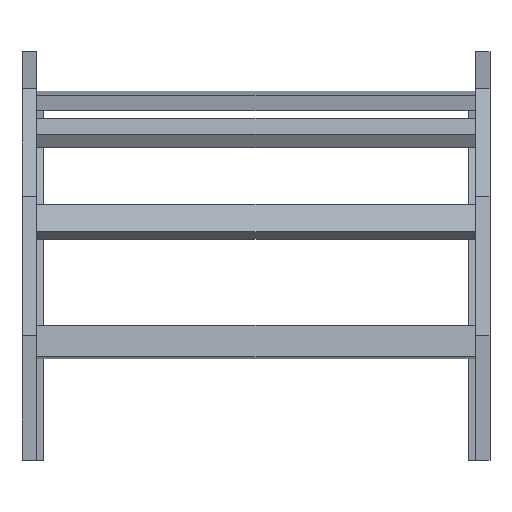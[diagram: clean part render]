
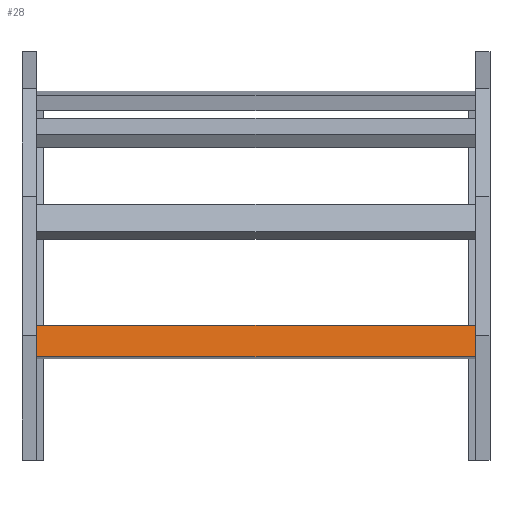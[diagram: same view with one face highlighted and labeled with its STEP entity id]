
A CAD part, top view. The second image highlights one B-rep face of the part: STEP entity #28.
In plain terms, the highlighted planar face has unit normal (0, 0.131, 0.991) as drawn and (0, 1, 0) by its records, which use the part's own axes.
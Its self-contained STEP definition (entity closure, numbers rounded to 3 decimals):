
#28 = ADVANCED_FACE ( 'NONE', ( #1362 ), #613, .F. ) ;
#58 = DIRECTION ( 'NONE',  ( -1., 0., 0. ) ) ;
#91 = VERTEX_POINT ( 'NONE', #241 ) ;
#149 = VERTEX_POINT ( 'NONE', #708 ) ;
#205 = DIRECTION ( 'NONE',  ( 0., 0., -1. ) ) ;
#241 = CARTESIAN_POINT ( 'NONE',  ( -298., 20., 20.25 ) ) ;
#307 = VERTEX_POINT ( 'NONE', #456 ) ;
#365 = VECTOR ( 'NONE', #58, 1000. ) ;
#412 = EDGE_CURVE ( 'NONE', #1349, #91, #1354, .T. ) ;
#456 = CARTESIAN_POINT ( 'NONE',  ( -298., 20., -20.25 ) ) ;
#505 = AXIS2_PLACEMENT_3D ( 'NONE', #1221, #1526, #205 ) ;
#533 = DIRECTION ( 'NONE',  ( 0., 0., 1. ) ) ;
#562 = EDGE_CURVE ( 'NONE', #149, #1349, #669, .T. ) ;
#589 = VECTOR ( 'NONE', #1327, 1000. ) ;
#613 = PLANE ( 'NONE',  #505 ) ;
#645 = VECTOR ( 'NONE', #533, 1000. ) ;
#646 = VECTOR ( 'NONE', #798, 1000. ) ;
#669 = LINE ( 'NONE', #812, #645 ) ;
#692 = CARTESIAN_POINT ( 'NONE',  ( -298., 20., 20.25 ) ) ;
#708 = CARTESIAN_POINT ( 'NONE',  ( 298., 20., -20.25 ) ) ;
#791 = CARTESIAN_POINT ( 'NONE',  ( 298., 20., -20.25 ) ) ;
#798 = DIRECTION ( 'NONE',  ( -1., 0., 0. ) ) ;
#812 = CARTESIAN_POINT ( 'NONE',  ( 298., 20., 20.25 ) ) ;
#942 = EDGE_CURVE ( 'NONE', #149, #307, #1864, .T. ) ;
#1023 = EDGE_CURVE ( 'NONE', #307, #91, #1463, .T. ) ;
#1055 = ORIENTED_EDGE ( 'NONE', *, *, #562, .F. ) ;
#1221 = CARTESIAN_POINT ( 'NONE',  ( 298., 20., 20.25 ) ) ;
#1281 = CARTESIAN_POINT ( 'NONE',  ( 298., 20., 20.25 ) ) ;
#1325 = ORIENTED_EDGE ( 'NONE', *, *, #1023, .T. ) ;
#1327 = DIRECTION ( 'NONE',  ( 0., 0., 1. ) ) ;
#1349 = VERTEX_POINT ( 'NONE', #1281 ) ;
#1354 = LINE ( 'NONE', #1385, #365 ) ;
#1362 = FACE_OUTER_BOUND ( 'NONE', #1569, .T. ) ;
#1385 = CARTESIAN_POINT ( 'NONE',  ( 298., 20., 20.25 ) ) ;
#1442 = ORIENTED_EDGE ( 'NONE', *, *, #942, .T. ) ;
#1463 = LINE ( 'NONE', #692, #589 ) ;
#1526 = DIRECTION ( 'NONE',  ( 0., -1., 0. ) ) ;
#1569 = EDGE_LOOP ( 'NONE', ( #1325, #1625, #1055, #1442 ) ) ;
#1625 = ORIENTED_EDGE ( 'NONE', *, *, #412, .F. ) ;
#1864 = LINE ( 'NONE', #791, #646 ) ;
